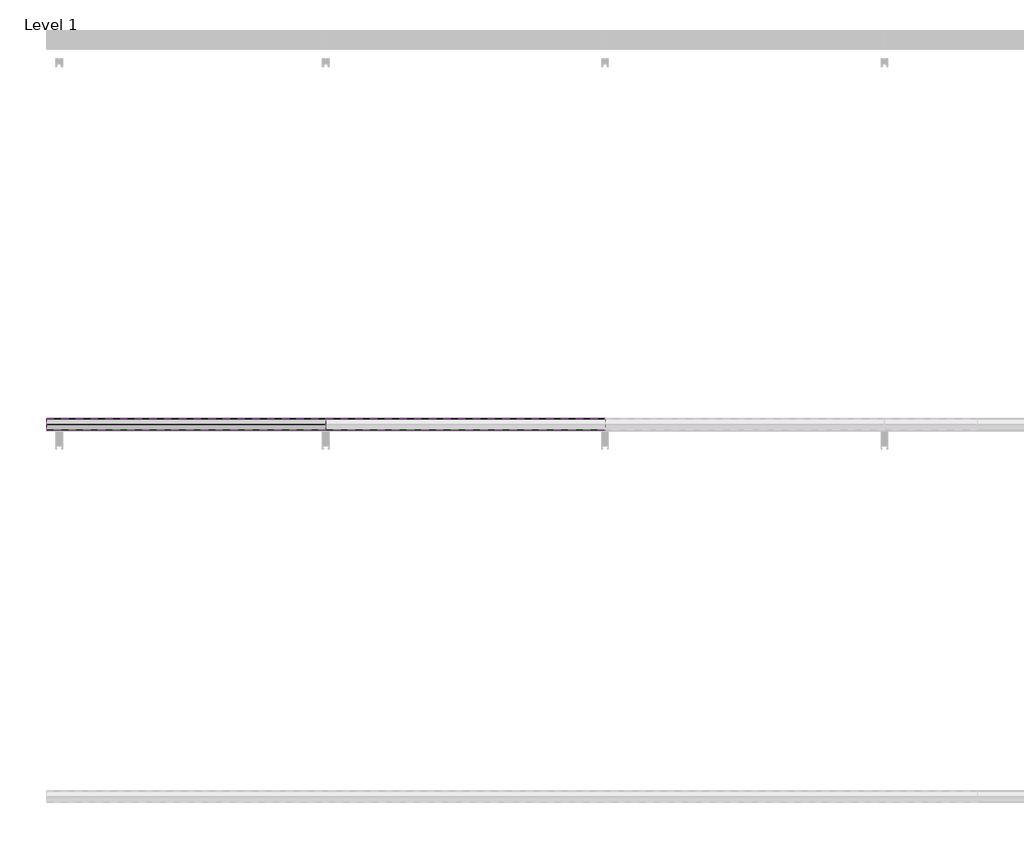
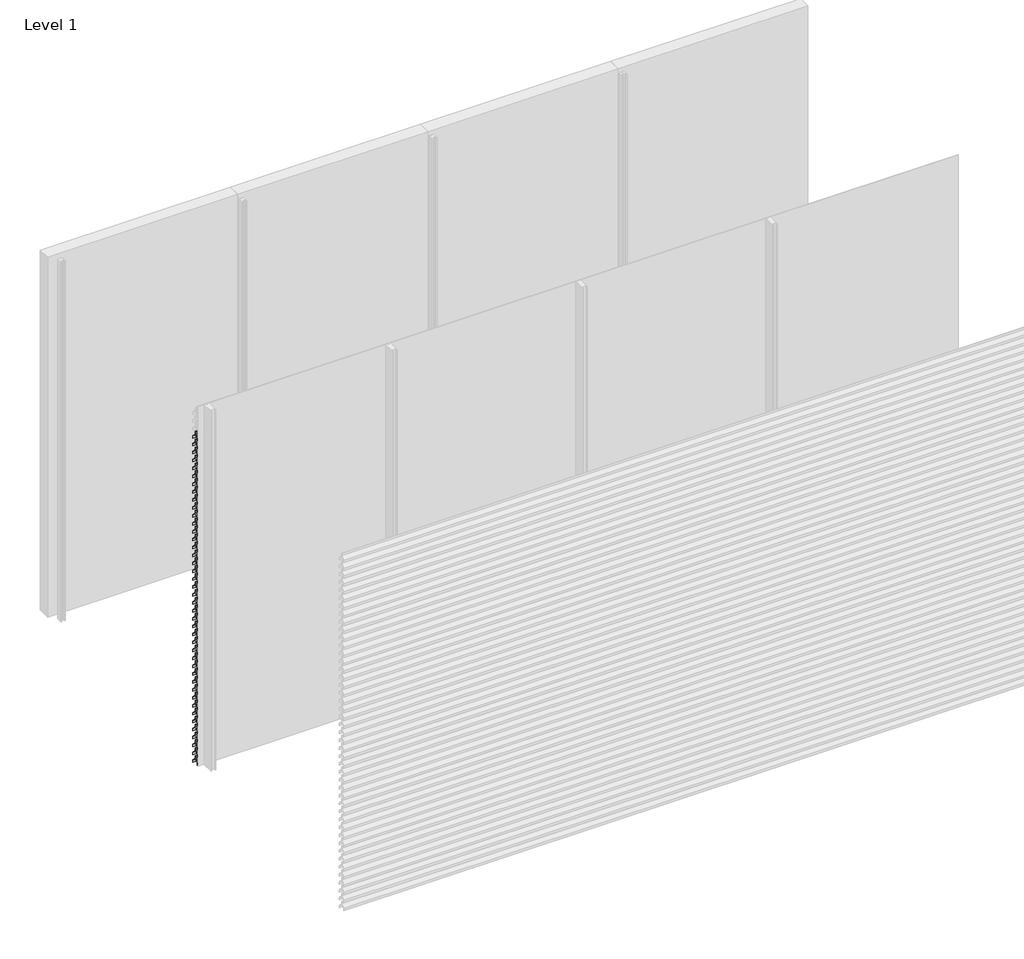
# One storey, part 23 of 35: 69 proxies.
"""IFC4 building model written with IfcOpenShell, lengths in millimetres."""

from ifc_helpers import new_model, si_unit, frame, origin, place, context, project, spatial, polyline, outline, extrude, element, save

model = new_model("IFC4")

# Units and contexts
model_context = context("Model", 3, world=origin())
ifc_project = project(units=[si_unit("LENGTHUNIT", "METRE", prefix="MILLI")], contexts=[model_context])

# Site, building, storey
site = spatial("IfcSite", under=ifc_project)
building = spatial("IfcBuilding", under=site)
storey = spatial("IfcBuildingStorey", under=building, Name="Level 1", Elevation=0.0)

# Proxies
placement = place(None, origin())
element("IfcBuildingElementProxy", 1, Name="Wall Sweeps", at=placement, inside=storey, context=model_context, shape_type="SweptSolid", body=[
    extrude(outline(polyline([(-17936.0, 2718.0), (-17936.0, 2698.0), (-17937.25, 2698.0), (-17937.25, 2717.4342979), (-17968.1138939, 2750.531772), (-17996.7, 2730.4392868), (-17996.7, 2711.6629874), (-17998.0, 2710.8506572), (-17998.0, 2731.1145472), (-17968.537525, 2751.823011), (-17968.537525, 2772.0), (-17967.1772624, 2772.0), (-17967.1772624, 2751.4335207), (-17936.0, 2718.0)])), frame((0.0, 0.0, 0.0), z_axis=(1.0, 0.0, 0.0), x_axis=(0.0, 1.0, 0.0)), (0.0, 0.0, 1.0), 1500.0),
])
element("IfcBuildingElementProxy", 2, Name="Wall Sweeps", at=placement, inside=storey, context=model_context, shape_type="SweptSolid", body=[
    extrude(outline(polyline([(-17936.0, 2652.0), (-17936.0, 2632.0), (-17937.25, 2632.0), (-17937.25, 2651.4342979), (-17968.1138939, 2684.531772), (-17996.7, 2664.4392868), (-17996.7, 2645.6629874), (-17998.0, 2644.8506572), (-17998.0, 2665.1145472), (-17968.537525, 2685.823011), (-17968.537525, 2706.0), (-17967.1772624, 2706.0), (-17967.1772624, 2685.4335207), (-17936.0, 2652.0)])), frame((0.0, 0.0, 0.0), z_axis=(1.0, 0.0, 0.0), x_axis=(0.0, 1.0, 0.0)), (0.0, 0.0, 1.0), 1500.0),
])
element("IfcBuildingElementProxy", 3, Name="Wall Sweeps", at=placement, inside=storey, context=model_context, shape_type="SweptSolid", body=[
    extrude(outline(polyline([(-17936.0, 2586.0), (-17936.0, 2566.0), (-17937.25, 2566.0), (-17937.25, 2585.4342979), (-17968.1138939, 2618.531772), (-17996.7, 2598.4392868), (-17996.7, 2579.6629874), (-17998.0, 2578.8506572), (-17998.0, 2599.1145472), (-17968.537525, 2619.823011), (-17968.537525, 2640.0), (-17967.1772624, 2640.0), (-17967.1772624, 2619.4335207), (-17936.0, 2586.0)])), frame((0.0, 0.0, 0.0), z_axis=(1.0, 0.0, 0.0), x_axis=(0.0, 1.0, 0.0)), (0.0, 0.0, 1.0), 1500.0),
])
element("IfcBuildingElementProxy", 4, Name="Wall Sweeps", at=placement, inside=storey, context=model_context, shape_type="SweptSolid", body=[
    extrude(outline(polyline([(-17936.0, 2520.0), (-17936.0, 2500.0), (-17937.25, 2500.0), (-17937.25, 2519.4342979), (-17968.1138939, 2552.531772), (-17996.7, 2532.4392868), (-17996.7, 2513.6629874), (-17998.0, 2512.8506572), (-17998.0, 2533.1145472), (-17968.537525, 2553.823011), (-17968.537525, 2574.0), (-17967.1772624, 2574.0), (-17967.1772624, 2553.4335207), (-17936.0, 2520.0)])), frame((0.0, 0.0, 0.0), z_axis=(1.0, 0.0, 0.0), x_axis=(0.0, 1.0, 0.0)), (0.0, 0.0, 1.0), 1500.0),
])
element("IfcBuildingElementProxy", 5, Name="Wall Sweeps", at=placement, inside=storey, context=model_context, shape_type="SweptSolid", body=[
    extrude(outline(polyline([(-17936.0, 2454.0), (-17936.0, 2434.0), (-17937.25, 2434.0), (-17937.25, 2453.4342979), (-17968.1138939, 2486.531772), (-17996.7, 2466.4392868), (-17996.7, 2447.6629874), (-17998.0, 2446.8506572), (-17998.0, 2467.1145472), (-17968.537525, 2487.823011), (-17968.537525, 2508.0), (-17967.1772624, 2508.0), (-17967.1772624, 2487.4335207), (-17936.0, 2454.0)])), frame((0.0, 0.0, 0.0), z_axis=(1.0, 0.0, 0.0), x_axis=(0.0, 1.0, 0.0)), (0.0, 0.0, 1.0), 1500.0),
])
element("IfcBuildingElementProxy", 6, Name="Wall Sweeps", at=placement, inside=storey, context=model_context, shape_type="SweptSolid", body=[
    extrude(outline(polyline([(-17936.0, 2388.0), (-17936.0, 2368.0), (-17937.25, 2368.0), (-17937.25, 2387.4342979), (-17968.1138939, 2420.531772), (-17996.7, 2400.4392868), (-17996.7, 2381.6629874), (-17998.0, 2380.8506572), (-17998.0, 2401.1145472), (-17968.537525, 2421.823011), (-17968.537525, 2442.0), (-17967.1772624, 2442.0), (-17967.1772624, 2421.4335207), (-17936.0, 2388.0)])), frame((0.0, 0.0, 0.0), z_axis=(1.0, 0.0, 0.0), x_axis=(0.0, 1.0, 0.0)), (0.0, 0.0, 1.0), 1500.0),
])
element("IfcBuildingElementProxy", 7, Name="Wall Sweeps", at=placement, inside=storey, context=model_context, shape_type="SweptSolid", body=[
    extrude(outline(polyline([(-17936.0, 2322.0), (-17936.0, 2302.0), (-17937.25, 2302.0), (-17937.25, 2321.4342979), (-17968.1138939, 2354.531772), (-17996.7, 2334.4392868), (-17996.7, 2315.6629874), (-17998.0, 2314.8506572), (-17998.0, 2335.1145472), (-17968.537525, 2355.823011), (-17968.537525, 2376.0), (-17967.1772624, 2376.0), (-17967.1772624, 2355.4335207), (-17936.0, 2322.0)])), frame((0.0, 0.0, 0.0), z_axis=(1.0, 0.0, 0.0), x_axis=(0.0, 1.0, 0.0)), (0.0, 0.0, 1.0), 1500.0),
])
element("IfcBuildingElementProxy", 8, Name="Wall Sweeps", at=placement, inside=storey, context=model_context, shape_type="SweptSolid", body=[
    extrude(outline(polyline([(-17936.0, 2256.0), (-17936.0, 2236.0), (-17937.25, 2236.0), (-17937.25, 2255.4342979), (-17968.1138939, 2288.531772), (-17996.7, 2268.4392868), (-17996.7, 2249.6629874), (-17998.0, 2248.8506572), (-17998.0, 2269.1145472), (-17968.537525, 2289.823011), (-17968.537525, 2310.0), (-17967.1772624, 2310.0), (-17967.1772624, 2289.4335207), (-17936.0, 2256.0)])), frame((0.0, 0.0, 0.0), z_axis=(1.0, 0.0, 0.0), x_axis=(0.0, 1.0, 0.0)), (0.0, 0.0, 1.0), 1500.0),
])
element("IfcBuildingElementProxy", 9, Name="Wall Sweeps", at=placement, inside=storey, context=model_context, shape_type="SweptSolid", body=[
    extrude(outline(polyline([(-17936.0, 2190.0), (-17936.0, 2170.0), (-17937.25, 2170.0), (-17937.25, 2189.4342979), (-17968.1138939, 2222.531772), (-17996.7, 2202.4392868), (-17996.7, 2183.6629874), (-17998.0, 2182.8506572), (-17998.0, 2203.1145472), (-17968.537525, 2223.823011), (-17968.537525, 2244.0), (-17967.1772624, 2244.0), (-17967.1772624, 2223.4335207), (-17936.0, 2190.0)])), frame((0.0, 0.0, 0.0), z_axis=(1.0, 0.0, 0.0), x_axis=(0.0, 1.0, 0.0)), (0.0, 0.0, 1.0), 1500.0),
])
element("IfcBuildingElementProxy", 10, Name="Wall Sweeps", at=placement, inside=storey, context=model_context, shape_type="SweptSolid", body=[
    extrude(outline(polyline([(-17936.0, 2124.0), (-17936.0, 2104.0), (-17937.25, 2104.0), (-17937.25, 2123.4342979), (-17968.1138939, 2156.531772), (-17996.7, 2136.4392868), (-17996.7, 2117.6629874), (-17998.0, 2116.8506572), (-17998.0, 2137.1145472), (-17968.537525, 2157.823011), (-17968.537525, 2178.0), (-17967.1772624, 2178.0), (-17967.1772624, 2157.4335207), (-17936.0, 2124.0)])), frame((0.0, 0.0, 0.0), z_axis=(1.0, 0.0, 0.0), x_axis=(0.0, 1.0, 0.0)), (0.0, 0.0, 1.0), 1500.0),
])
element("IfcBuildingElementProxy", 11, Name="Wall Sweeps", at=placement, inside=storey, context=model_context, shape_type="SweptSolid", body=[
    extrude(outline(polyline([(-17936.0, 2058.0), (-17936.0, 2038.0), (-17937.25, 2038.0), (-17937.25, 2057.4342979), (-17968.1138939, 2090.531772), (-17996.7, 2070.4392868), (-17996.7, 2051.6629874), (-17998.0, 2050.8506572), (-17998.0, 2071.1145472), (-17968.537525, 2091.823011), (-17968.537525, 2112.0), (-17967.1772624, 2112.0), (-17967.1772624, 2091.4335207), (-17936.0, 2058.0)])), frame((0.0, 0.0, 0.0), z_axis=(1.0, 0.0, 0.0), x_axis=(0.0, 1.0, 0.0)), (0.0, 0.0, 1.0), 1500.0),
])
element("IfcBuildingElementProxy", 12, Name="Wall Sweeps", at=placement, inside=storey, context=model_context, shape_type="SweptSolid", body=[
    extrude(outline(polyline([(-17936.0, 1992.0), (-17936.0, 1972.0), (-17937.25, 1972.0), (-17937.25, 1991.4342979), (-17968.1138939, 2024.531772), (-17996.7, 2004.4392868), (-17996.7, 1985.6629874), (-17998.0, 1984.8506572), (-17998.0, 2005.1145472), (-17968.537525, 2025.823011), (-17968.537525, 2046.0), (-17967.1772624, 2046.0), (-17967.1772624, 2025.4335207), (-17936.0, 1992.0)])), frame((0.0, 0.0, 0.0), z_axis=(1.0, 0.0, 0.0), x_axis=(0.0, 1.0, 0.0)), (0.0, 0.0, 1.0), 1500.0),
])
element("IfcBuildingElementProxy", 13, Name="Wall Sweeps", at=placement, inside=storey, context=model_context, shape_type="SweptSolid", body=[
    extrude(outline(polyline([(-17936.0, 1926.0), (-17936.0, 1906.0), (-17937.25, 1906.0), (-17937.25, 1925.4342979), (-17968.1138939, 1958.531772), (-17996.7, 1938.4392868), (-17996.7, 1919.6629874), (-17998.0, 1918.8506572), (-17998.0, 1939.1145472), (-17968.537525, 1959.823011), (-17968.537525, 1980.0), (-17967.1772624, 1980.0), (-17967.1772624, 1959.4335207), (-17936.0, 1926.0)])), frame((0.0, 0.0, 0.0), z_axis=(1.0, 0.0, 0.0), x_axis=(0.0, 1.0, 0.0)), (0.0, 0.0, 1.0), 1500.0),
])
element("IfcBuildingElementProxy", 14, Name="Wall Sweeps", at=placement, inside=storey, context=model_context, shape_type="SweptSolid", body=[
    extrude(outline(polyline([(-17936.0, 1860.0), (-17936.0, 1840.0), (-17937.25, 1840.0), (-17937.25, 1859.4342979), (-17968.1138939, 1892.531772), (-17996.7, 1872.4392868), (-17996.7, 1853.6629874), (-17998.0, 1852.8506572), (-17998.0, 1873.1145472), (-17968.537525, 1893.823011), (-17968.537525, 1914.0), (-17967.1772624, 1914.0), (-17967.1772624, 1893.4335207), (-17936.0, 1860.0)])), frame((0.0, 0.0, 0.0), z_axis=(1.0, 0.0, 0.0), x_axis=(0.0, 1.0, 0.0)), (0.0, 0.0, 1.0), 1500.0),
])
element("IfcBuildingElementProxy", 15, Name="Wall Sweeps", at=placement, inside=storey, context=model_context, shape_type="SweptSolid", body=[
    extrude(outline(polyline([(-17936.0, 1794.0), (-17936.0, 1774.0), (-17937.25, 1774.0), (-17937.25, 1793.4342979), (-17968.1138939, 1826.531772), (-17996.7, 1806.4392868), (-17996.7, 1787.6629874), (-17998.0, 1786.8506572), (-17998.0, 1807.1145472), (-17968.537525, 1827.823011), (-17968.537525, 1848.0), (-17967.1772624, 1848.0), (-17967.1772624, 1827.4335207), (-17936.0, 1794.0)])), frame((0.0, 0.0, 0.0), z_axis=(1.0, 0.0, 0.0), x_axis=(0.0, 1.0, 0.0)), (0.0, 0.0, 1.0), 1500.0),
])
element("IfcBuildingElementProxy", 16, Name="Wall Sweeps", at=placement, inside=storey, context=model_context, shape_type="SweptSolid", body=[
    extrude(outline(polyline([(-17936.0, 1728.0), (-17936.0, 1708.0), (-17937.25, 1708.0), (-17937.25, 1727.4342979), (-17968.1138939, 1760.531772), (-17996.7, 1740.4392868), (-17996.7, 1721.6629874), (-17998.0, 1720.8506572), (-17998.0, 1741.1145472), (-17968.537525, 1761.823011), (-17968.537525, 1782.0), (-17967.1772624, 1782.0), (-17967.1772624, 1761.4335207), (-17936.0, 1728.0)])), frame((0.0, 0.0, 0.0), z_axis=(1.0, 0.0, 0.0), x_axis=(0.0, 1.0, 0.0)), (0.0, 0.0, 1.0), 1500.0),
])
element("IfcBuildingElementProxy", 17, Name="Wall Sweeps", at=placement, inside=storey, context=model_context, shape_type="SweptSolid", body=[
    extrude(outline(polyline([(-17936.0, 1662.0), (-17936.0, 1642.0), (-17937.25, 1642.0), (-17937.25, 1661.4342979), (-17968.1138939, 1694.531772), (-17996.7, 1674.4392868), (-17996.7, 1655.6629874), (-17998.0, 1654.8506572), (-17998.0, 1675.1145472), (-17968.537525, 1695.823011), (-17968.537525, 1716.0), (-17967.1772624, 1716.0), (-17967.1772624, 1695.4335207), (-17936.0, 1662.0)])), frame((0.0, 0.0, 0.0), z_axis=(1.0, 0.0, 0.0), x_axis=(0.0, 1.0, 0.0)), (0.0, 0.0, 1.0), 1500.0),
])
element("IfcBuildingElementProxy", 18, Name="Wall Sweeps", at=placement, inside=storey, context=model_context, shape_type="SweptSolid", body=[
    extrude(outline(polyline([(-17936.0, 1596.0), (-17936.0, 1576.0), (-17937.25, 1576.0), (-17937.25, 1595.4342979), (-17968.1138939, 1628.531772), (-17996.7, 1608.4392868), (-17996.7, 1589.6629874), (-17998.0, 1588.8506572), (-17998.0, 1609.1145472), (-17968.537525, 1629.823011), (-17968.537525, 1650.0), (-17967.1772624, 1650.0), (-17967.1772624, 1629.4335207), (-17936.0, 1596.0)])), frame((0.0, 0.0, 0.0), z_axis=(1.0, 0.0, 0.0), x_axis=(0.0, 1.0, 0.0)), (0.0, 0.0, 1.0), 1500.0),
])
element("IfcBuildingElementProxy", 19, Name="Wall Sweeps", at=placement, inside=storey, context=model_context, shape_type="SweptSolid", body=[
    extrude(outline(polyline([(-17936.0, 1530.0), (-17936.0, 1510.0), (-17937.25, 1510.0), (-17937.25, 1529.4342979), (-17968.1138939, 1562.531772), (-17996.7, 1542.4392868), (-17996.7, 1523.6629874), (-17998.0, 1522.8506572), (-17998.0, 1543.1145472), (-17968.537525, 1563.823011), (-17968.537525, 1584.0), (-17967.1772624, 1584.0), (-17967.1772624, 1563.4335207), (-17936.0, 1530.0)])), frame((0.0, 0.0, 0.0), z_axis=(1.0, 0.0, 0.0), x_axis=(0.0, 1.0, 0.0)), (0.0, 0.0, 1.0), 1500.0),
])
element("IfcBuildingElementProxy", 20, Name="Wall Sweeps", at=placement, inside=storey, context=model_context, shape_type="SweptSolid", body=[
    extrude(outline(polyline([(-17936.0, 1464.0), (-17936.0, 1444.0), (-17937.25, 1444.0), (-17937.25, 1463.4342979), (-17968.1138939, 1496.531772), (-17996.7, 1476.4392868), (-17996.7, 1457.6629874), (-17998.0, 1456.8506572), (-17998.0, 1477.1145472), (-17968.537525, 1497.823011), (-17968.537525, 1518.0), (-17967.1772624, 1518.0), (-17967.1772624, 1497.4335207), (-17936.0, 1464.0)])), frame((0.0, 0.0, 0.0), z_axis=(1.0, 0.0, 0.0), x_axis=(0.0, 1.0, 0.0)), (0.0, 0.0, 1.0), 1500.0),
])
element("IfcBuildingElementProxy", 21, Name="Wall Sweeps", at=placement, inside=storey, context=model_context, shape_type="SweptSolid", body=[
    extrude(outline(polyline([(-17936.0, 1398.0), (-17936.0, 1378.0), (-17937.25, 1378.0), (-17937.25, 1397.4342979), (-17968.1138939, 1430.531772), (-17996.7, 1410.4392868), (-17996.7, 1391.6629874), (-17998.0, 1390.8506572), (-17998.0, 1411.1145472), (-17968.537525, 1431.823011), (-17968.537525, 1452.0), (-17967.1772624, 1452.0), (-17967.1772624, 1431.4335207), (-17936.0, 1398.0)])), frame((0.0, 0.0, 0.0), z_axis=(1.0, 0.0, 0.0), x_axis=(0.0, 1.0, 0.0)), (0.0, 0.0, 1.0), 1500.0),
])
element("IfcBuildingElementProxy", 22, Name="Wall Sweeps", at=placement, inside=storey, context=model_context, shape_type="SweptSolid", body=[
    extrude(outline(polyline([(-17936.0, 1332.0), (-17936.0, 1312.0), (-17937.25, 1312.0), (-17937.25, 1331.4342979), (-17968.1138939, 1364.531772), (-17996.7, 1344.4392868), (-17996.7, 1325.6629874), (-17998.0, 1324.8506572), (-17998.0, 1345.1145472), (-17968.537525, 1365.823011), (-17968.537525, 1386.0), (-17967.1772624, 1386.0), (-17967.1772624, 1365.4335207), (-17936.0, 1332.0)])), frame((0.0, 0.0, 0.0), z_axis=(1.0, 0.0, 0.0), x_axis=(0.0, 1.0, 0.0)), (0.0, 0.0, 1.0), 1500.0),
])
element("IfcBuildingElementProxy", 23, Name="Wall Sweeps", at=placement, inside=storey, context=model_context, shape_type="SweptSolid", body=[
    extrude(outline(polyline([(-17936.0, 1266.0), (-17936.0, 1246.0), (-17937.25, 1246.0), (-17937.25, 1265.4342979), (-17968.1138939, 1298.531772), (-17996.7, 1278.4392868), (-17996.7, 1259.6629874), (-17998.0, 1258.8506572), (-17998.0, 1279.1145472), (-17968.537525, 1299.823011), (-17968.537525, 1320.0), (-17967.1772624, 1320.0), (-17967.1772624, 1299.4335207), (-17936.0, 1266.0)])), frame((0.0, 0.0, 0.0), z_axis=(1.0, 0.0, 0.0), x_axis=(0.0, 1.0, 0.0)), (0.0, 0.0, 1.0), 1500.0),
])
element("IfcBuildingElementProxy", 24, Name="Wall Sweeps", at=placement, inside=storey, context=model_context, shape_type="SweptSolid", body=[
    extrude(outline(polyline([(-17936.0, 1200.0), (-17936.0, 1180.0), (-17937.25, 1180.0), (-17937.25, 1199.4342979), (-17968.1138939, 1232.531772), (-17996.7, 1212.4392868), (-17996.7, 1193.6629874), (-17998.0, 1192.8506572), (-17998.0, 1213.1145472), (-17968.537525, 1233.823011), (-17968.537525, 1254.0), (-17967.1772624, 1254.0), (-17967.1772624, 1233.4335207), (-17936.0, 1200.0)])), frame((0.0, 0.0, 0.0), z_axis=(1.0, 0.0, 0.0), x_axis=(0.0, 1.0, 0.0)), (0.0, 0.0, 1.0), 1500.0),
])
element("IfcBuildingElementProxy", 25, Name="Wall Sweeps", at=placement, inside=storey, context=model_context, shape_type="SweptSolid", body=[
    extrude(outline(polyline([(-17936.0, 1134.0), (-17936.0, 1114.0), (-17937.25, 1114.0), (-17937.25, 1133.4342979), (-17968.1138939, 1166.531772), (-17996.7, 1146.4392868), (-17996.7, 1127.6629874), (-17998.0, 1126.8506572), (-17998.0, 1147.1145472), (-17968.537525, 1167.823011), (-17968.537525, 1188.0), (-17967.1772624, 1188.0), (-17967.1772624, 1167.4335207), (-17936.0, 1134.0)])), frame((0.0, 0.0, 0.0), z_axis=(1.0, 0.0, 0.0), x_axis=(0.0, 1.0, 0.0)), (0.0, 0.0, 1.0), 1500.0),
])
element("IfcBuildingElementProxy", 26, Name="Wall Sweeps", at=placement, inside=storey, context=model_context, shape_type="SweptSolid", body=[
    extrude(outline(polyline([(-17936.0, 1068.0), (-17936.0, 1048.0), (-17937.25, 1048.0), (-17937.25, 1067.4342979), (-17968.1138939, 1100.531772), (-17996.7, 1080.4392868), (-17996.7, 1061.6629874), (-17998.0, 1060.8506572), (-17998.0, 1081.1145472), (-17968.537525, 1101.823011), (-17968.537525, 1122.0), (-17967.1772624, 1122.0), (-17967.1772624, 1101.4335207), (-17936.0, 1068.0)])), frame((0.0, 0.0, 0.0), z_axis=(1.0, 0.0, 0.0), x_axis=(0.0, 1.0, 0.0)), (0.0, 0.0, 1.0), 1500.0),
])
element("IfcBuildingElementProxy", 27, Name="Wall Sweeps", at=placement, inside=storey, context=model_context, shape_type="SweptSolid", body=[
    extrude(outline(polyline([(-17936.0, 1002.0), (-17936.0, 982.0), (-17937.25, 982.0), (-17937.25, 1001.4342979), (-17968.1138939, 1034.531772), (-17996.7, 1014.4392868), (-17996.7, 995.6629874), (-17998.0, 994.8506572), (-17998.0, 1015.1145472), (-17968.537525, 1035.823011), (-17968.537525, 1056.0), (-17967.1772624, 1056.0), (-17967.1772624, 1035.4335207), (-17936.0, 1002.0)])), frame((0.0, 0.0, 0.0), z_axis=(1.0, 0.0, 0.0), x_axis=(0.0, 1.0, 0.0)), (0.0, 0.0, 1.0), 1500.0),
])
element("IfcBuildingElementProxy", 28, Name="Wall Sweeps", at=placement, inside=storey, context=model_context, shape_type="SweptSolid", body=[
    extrude(outline(polyline([(-17936.0, 936.0), (-17936.0, 916.0), (-17937.25, 916.0), (-17937.25, 935.4342979), (-17968.1138939, 968.531772), (-17996.7, 948.4392868), (-17996.7, 929.6629874), (-17998.0, 928.8506572), (-17998.0, 949.1145472), (-17968.537525, 969.823011), (-17968.537525, 990.0), (-17967.1772624, 990.0), (-17967.1772624, 969.4335207), (-17936.0, 936.0)])), frame((0.0, 0.0, 0.0), z_axis=(1.0, 0.0, 0.0), x_axis=(0.0, 1.0, 0.0)), (0.0, 0.0, 1.0), 1500.0),
])
element("IfcBuildingElementProxy", 29, Name="Wall Sweeps", at=placement, inside=storey, context=model_context, shape_type="SweptSolid", body=[
    extrude(outline(polyline([(-17936.0, 870.0), (-17936.0, 850.0), (-17937.25, 850.0), (-17937.25, 869.4342979), (-17968.1138939, 902.531772), (-17996.7, 882.4392868), (-17996.7, 863.6629874), (-17998.0, 862.8506572), (-17998.0, 883.1145472), (-17968.537525, 903.823011), (-17968.537525, 924.0), (-17967.1772624, 924.0), (-17967.1772624, 903.4335207), (-17936.0, 870.0)])), frame((0.0, 0.0, 0.0), z_axis=(1.0, 0.0, 0.0), x_axis=(0.0, 1.0, 0.0)), (0.0, 0.0, 1.0), 1500.0),
])
element("IfcBuildingElementProxy", 30, Name="Wall Sweeps", at=placement, inside=storey, context=model_context, shape_type="SweptSolid", body=[
    extrude(outline(polyline([(-17936.0, 804.0), (-17936.0, 784.0), (-17937.25, 784.0), (-17937.25, 803.4342979), (-17968.1138939, 836.531772), (-17996.7, 816.4392868), (-17996.7, 797.6629874), (-17998.0, 796.8506572), (-17998.0, 817.1145472), (-17968.537525, 837.823011), (-17968.537525, 858.0), (-17967.1772624, 858.0), (-17967.1772624, 837.4335207), (-17936.0, 804.0)])), frame((0.0, 0.0, 0.0), z_axis=(1.0, 0.0, 0.0), x_axis=(0.0, 1.0, 0.0)), (0.0, 0.0, 1.0), 1500.0),
])
element("IfcBuildingElementProxy", 31, Name="Wall Sweeps", at=placement, inside=storey, context=model_context, shape_type="SweptSolid", body=[
    extrude(outline(polyline([(-17936.0, 738.0), (-17936.0, 718.0), (-17937.25, 718.0), (-17937.25, 737.4342979), (-17968.1138939, 770.531772), (-17996.7, 750.4392868), (-17996.7, 731.6629874), (-17998.0, 730.8506572), (-17998.0, 751.1145472), (-17968.537525, 771.823011), (-17968.537525, 792.0), (-17967.1772624, 792.0), (-17967.1772624, 771.4335207), (-17936.0, 738.0)])), frame((0.0, 0.0, 0.0), z_axis=(1.0, 0.0, 0.0), x_axis=(0.0, 1.0, 0.0)), (0.0, 0.0, 1.0), 1500.0),
])
element("IfcBuildingElementProxy", 32, Name="Wall Sweeps", at=placement, inside=storey, context=model_context, shape_type="SweptSolid", body=[
    extrude(outline(polyline([(-17936.0, 672.0), (-17936.0, 652.0), (-17937.25, 652.0), (-17937.25, 671.4342979), (-17968.1138939, 704.531772), (-17996.7, 684.4392868), (-17996.7, 665.6629874), (-17998.0, 664.8506572), (-17998.0, 685.1145472), (-17968.537525, 705.823011), (-17968.537525, 726.0), (-17967.1772624, 726.0), (-17967.1772624, 705.4335207), (-17936.0, 672.0)])), frame((0.0, 0.0, 0.0), z_axis=(1.0, 0.0, 0.0), x_axis=(0.0, 1.0, 0.0)), (0.0, 0.0, 1.0), 1500.0),
])
element("IfcBuildingElementProxy", 33, Name="Wall Sweeps", at=placement, inside=storey, context=model_context, shape_type="SweptSolid", body=[
    extrude(outline(polyline([(-17936.0, 606.0), (-17936.0, 586.0), (-17937.25, 586.0), (-17937.25, 605.4342979), (-17968.1138939, 638.531772), (-17996.7, 618.4392868), (-17996.7, 599.6629874), (-17998.0, 598.8506572), (-17998.0, 619.1145472), (-17968.537525, 639.823011), (-17968.537525, 660.0), (-17967.1772624, 660.0), (-17967.1772624, 639.4335207), (-17936.0, 606.0)])), frame((0.0, 0.0, 0.0), z_axis=(1.0, 0.0, 0.0), x_axis=(0.0, 1.0, 0.0)), (0.0, 0.0, 1.0), 1500.0),
])
element("IfcBuildingElementProxy", 34, Name="Wall Sweeps", at=placement, inside=storey, context=model_context, shape_type="SweptSolid", body=[
    extrude(outline(polyline([(-17936.0, 540.0), (-17936.0, 520.0), (-17937.25, 520.0), (-17937.25, 539.4342979), (-17968.1138939, 572.531772), (-17996.7, 552.4392868), (-17996.7, 533.6629874), (-17998.0, 532.8506572), (-17998.0, 553.1145472), (-17968.537525, 573.823011), (-17968.537525, 594.0), (-17967.1772624, 594.0), (-17967.1772624, 573.4335207), (-17936.0, 540.0)])), frame((0.0, 0.0, 0.0), z_axis=(1.0, 0.0, 0.0), x_axis=(0.0, 1.0, 0.0)), (0.0, 0.0, 1.0), 1500.0),
])
element("IfcBuildingElementProxy", 35, Name="Wall Sweeps", at=placement, inside=storey, context=model_context, shape_type="SweptSolid", body=[
    extrude(outline(polyline([(-17936.0, 474.0), (-17936.0, 454.0), (-17937.25, 454.0), (-17937.25, 473.4342979), (-17968.1138939, 506.531772), (-17996.7, 486.4392868), (-17996.7, 467.6629874), (-17998.0, 466.8506572), (-17998.0, 487.1145472), (-17968.537525, 507.823011), (-17968.537525, 528.0), (-17967.1772624, 528.0), (-17967.1772624, 507.4335207), (-17936.0, 474.0)])), frame((0.0, 0.0, 0.0), z_axis=(1.0, 0.0, 0.0), x_axis=(0.0, 1.0, 0.0)), (0.0, 0.0, 1.0), 1500.0),
])
element("IfcBuildingElementProxy", 36, Name="Wall Sweeps", at=placement, inside=storey, context=model_context, shape_type="SweptSolid", body=[
    extrude(outline(polyline([(-17936.0, 408.0), (-17936.0, 388.0), (-17937.25, 388.0), (-17937.25, 407.4342979), (-17968.1138939, 440.531772), (-17996.7, 420.4392868), (-17996.7, 401.6629874), (-17998.0, 400.8506572), (-17998.0, 421.1145472), (-17968.537525, 441.823011), (-17968.537525, 462.0), (-17967.1772624, 462.0), (-17967.1772624, 441.4335207), (-17936.0, 408.0)])), frame((0.0, 0.0, 0.0), z_axis=(1.0, 0.0, 0.0), x_axis=(0.0, 1.0, 0.0)), (0.0, 0.0, 1.0), 1500.0),
])
element("IfcBuildingElementProxy", 37, Name="Wall Sweeps", at=placement, inside=storey, context=model_context, shape_type="SweptSolid", body=[
    extrude(outline(polyline([(-17936.0, 342.0), (-17936.0, 322.0), (-17937.25, 322.0), (-17937.25, 341.4342979), (-17968.1138939, 374.531772), (-17996.7, 354.4392868), (-17996.7, 335.6629874), (-17998.0, 334.8506572), (-17998.0, 355.1145472), (-17968.537525, 375.823011), (-17968.537525, 396.0), (-17967.1772624, 396.0), (-17967.1772624, 375.4335207), (-17936.0, 342.0)])), frame((0.0, 0.0, 0.0), z_axis=(1.0, 0.0, 0.0), x_axis=(0.0, 1.0, 0.0)), (0.0, 0.0, 1.0), 1500.0),
])
element("IfcBuildingElementProxy", 38, Name="Wall Sweeps", at=placement, inside=storey, context=model_context, shape_type="SweptSolid", body=[
    extrude(outline(polyline([(-17936.0, 276.0), (-17936.0, 256.0), (-17937.25, 256.0), (-17937.25, 275.4342979), (-17968.1138939, 308.531772), (-17996.7, 288.4392868), (-17996.7, 269.6629874), (-17998.0, 268.8506572), (-17998.0, 289.1145472), (-17968.537525, 309.823011), (-17968.537525, 330.0), (-17967.1772624, 330.0), (-17967.1772624, 309.4335207), (-17936.0, 276.0)])), frame((0.0, 0.0, 0.0), z_axis=(1.0, 0.0, 0.0), x_axis=(0.0, 1.0, 0.0)), (0.0, 0.0, 1.0), 1500.0),
])
element("IfcBuildingElementProxy", 39, Name="Wall Sweeps", at=placement, inside=storey, context=model_context, shape_type="SweptSolid", body=[
    extrude(outline(polyline([(-17936.0, 210.0), (-17936.0, 190.0), (-17937.25, 190.0), (-17937.25, 209.4342979), (-17968.1138939, 242.531772), (-17996.7, 222.4392868), (-17996.7, 203.6629874), (-17998.0, 202.8506572), (-17998.0, 223.1145472), (-17968.537525, 243.823011), (-17968.537525, 264.0), (-17967.1772624, 264.0), (-17967.1772624, 243.4335207), (-17936.0, 210.0)])), frame((0.0, 0.0, 0.0), z_axis=(1.0, 0.0, 0.0), x_axis=(0.0, 1.0, 0.0)), (0.0, 0.0, 1.0), 1500.0),
])
element("IfcBuildingElementProxy", 40, Name="Wall Sweeps", at=placement, inside=storey, context=model_context, shape_type="SweptSolid", body=[
    extrude(outline(polyline([(-17936.0, 144.0), (-17936.0, 124.0), (-17937.25, 124.0), (-17937.25, 143.4342979), (-17968.1138939, 176.531772), (-17996.7, 156.4392868), (-17996.7, 137.6629874), (-17998.0, 136.8506572), (-17998.0, 157.1145472), (-17968.537525, 177.823011), (-17968.537525, 198.0), (-17967.1772624, 198.0), (-17967.1772624, 177.4335207), (-17936.0, 144.0)])), frame((0.0, 0.0, 0.0), z_axis=(1.0, 0.0, 0.0), x_axis=(0.0, 1.0, 0.0)), (0.0, 0.0, 1.0), 1500.0),
])
element("IfcBuildingElementProxy", 41, Name="Wall Sweeps", at=placement, inside=storey, context=model_context, shape_type="SweptSolid", body=[
    extrude(outline(polyline([(-17936.0, 78.0), (-17936.0, 58.0), (-17937.25, 58.0), (-17937.25, 77.4342979), (-17968.1138939, 110.531772), (-17996.7, 90.4392868), (-17996.7, 71.6629874), (-17998.0, 70.8506572), (-17998.0, 91.1145472), (-17968.537525, 111.823011), (-17968.537525, 132.0), (-17967.1772624, 132.0), (-17967.1772624, 111.4335207), (-17936.0, 78.0)])), frame((0.0, 0.0, 0.0), z_axis=(1.0, 0.0, 0.0), x_axis=(0.0, 1.0, 0.0)), (0.0, 0.0, 1.0), 1500.0),
])
element("IfcBuildingElementProxy", 42, Name="Wall Sweeps", at=placement, inside=storey, context=model_context, shape_type="SweptSolid", body=[
    extrude(outline(polyline([(-17936.0, 12.0), (-17936.0, -8.0), (-17937.25, -8.0), (-17937.25, 11.4342979), (-17968.1138939, 44.531772), (-17996.7, 24.4392868), (-17996.7, 5.6629874), (-17998.0, 4.8506572), (-17998.0, 25.1145472), (-17968.537525, 45.823011), (-17968.537525, 66.0), (-17967.1772624, 66.0), (-17967.1772624, 45.4335207), (-17936.0, 12.0)])), frame((0.0, 0.0, 0.0), z_axis=(1.0, 0.0, 0.0), x_axis=(0.0, 1.0, 0.0)), (0.0, 0.0, 1.0), 1500.0),
])
element("IfcBuildingElementProxy", 43, Name="Wall Sweeps", at=placement, inside=storey, context=model_context, shape_type="SweptSolid", body=[
    extrude(outline(polyline([(-17936.0, 2916.0), (-17936.0, 2896.0), (-17937.25, 2896.0), (-17937.25, 2915.4342979), (-17968.1138939, 2948.531772), (-17996.7, 2928.4392868), (-17996.7, 2909.6629874), (-17998.0, 2908.8506572), (-17998.0, 2929.1145472), (-17968.537525, 2949.823011), (-17968.537525, 2970.0), (-17967.1772624, 2970.0), (-17967.1772624, 2949.4335207), (-17936.0, 2916.0)])), frame((1500.0, 0.0, 0.0), z_axis=(1.0, 0.0, 0.0), x_axis=(0.0, 1.0, 0.0)), (0.0, 0.0, 1.0), 1500.0),
])
element("IfcBuildingElementProxy", 44, Name="Wall Sweeps", at=placement, inside=storey, context=model_context, shape_type="SweptSolid", body=[
    extrude(outline(polyline([(-17936.0, 2850.0), (-17936.0, 2830.0), (-17937.25, 2830.0), (-17937.25, 2849.4342979), (-17968.1138939, 2882.531772), (-17996.7, 2862.4392868), (-17996.7, 2843.6629874), (-17998.0, 2842.8506572), (-17998.0, 2863.1145472), (-17968.537525, 2883.823011), (-17968.537525, 2904.0), (-17967.1772624, 2904.0), (-17967.1772624, 2883.4335207), (-17936.0, 2850.0)])), frame((1500.0, 0.0, 0.0), z_axis=(1.0, 0.0, 0.0), x_axis=(0.0, 1.0, 0.0)), (0.0, 0.0, 1.0), 1500.0),
])
element("IfcBuildingElementProxy", 45, Name="Wall Sweeps", at=placement, inside=storey, context=model_context, shape_type="SweptSolid", body=[
    extrude(outline(polyline([(-17936.0, 2784.0), (-17936.0, 2764.0), (-17937.25, 2764.0), (-17937.25, 2783.4342979), (-17968.1138939, 2816.531772), (-17996.7, 2796.4392868), (-17996.7, 2777.6629874), (-17998.0, 2776.8506572), (-17998.0, 2797.1145472), (-17968.537525, 2817.823011), (-17968.537525, 2838.0), (-17967.1772624, 2838.0), (-17967.1772624, 2817.4335207), (-17936.0, 2784.0)])), frame((1500.0, 0.0, 0.0), z_axis=(1.0, 0.0, 0.0), x_axis=(0.0, 1.0, 0.0)), (0.0, 0.0, 1.0), 1500.0),
])
element("IfcBuildingElementProxy", 46, Name="Wall Sweeps", at=placement, inside=storey, context=model_context, shape_type="SweptSolid", body=[
    extrude(outline(polyline([(-17936.0, 2718.0), (-17936.0, 2698.0), (-17937.25, 2698.0), (-17937.25, 2717.4342979), (-17968.1138939, 2750.531772), (-17996.7, 2730.4392868), (-17996.7, 2711.6629874), (-17998.0, 2710.8506572), (-17998.0, 2731.1145472), (-17968.537525, 2751.823011), (-17968.537525, 2772.0), (-17967.1772624, 2772.0), (-17967.1772624, 2751.4335207), (-17936.0, 2718.0)])), frame((1500.0, 0.0, 0.0), z_axis=(1.0, 0.0, 0.0), x_axis=(0.0, 1.0, 0.0)), (0.0, 0.0, 1.0), 1500.0),
])
element("IfcBuildingElementProxy", 47, Name="Wall Sweeps", at=placement, inside=storey, context=model_context, shape_type="SweptSolid", body=[
    extrude(outline(polyline([(-17936.0, 2652.0), (-17936.0, 2632.0), (-17937.25, 2632.0), (-17937.25, 2651.4342979), (-17968.1138939, 2684.531772), (-17996.7, 2664.4392868), (-17996.7, 2645.6629874), (-17998.0, 2644.8506572), (-17998.0, 2665.1145472), (-17968.537525, 2685.823011), (-17968.537525, 2706.0), (-17967.1772624, 2706.0), (-17967.1772624, 2685.4335207), (-17936.0, 2652.0)])), frame((1500.0, 0.0, 0.0), z_axis=(1.0, 0.0, 0.0), x_axis=(0.0, 1.0, 0.0)), (0.0, 0.0, 1.0), 1500.0),
])
element("IfcBuildingElementProxy", 48, Name="Wall Sweeps", at=placement, inside=storey, context=model_context, shape_type="SweptSolid", body=[
    extrude(outline(polyline([(-17936.0, 2586.0), (-17936.0, 2566.0), (-17937.25, 2566.0), (-17937.25, 2585.4342979), (-17968.1138939, 2618.531772), (-17996.7, 2598.4392868), (-17996.7, 2579.6629874), (-17998.0, 2578.8506572), (-17998.0, 2599.1145472), (-17968.537525, 2619.823011), (-17968.537525, 2640.0), (-17967.1772624, 2640.0), (-17967.1772624, 2619.4335207), (-17936.0, 2586.0)])), frame((1500.0, 0.0, 0.0), z_axis=(1.0, 0.0, 0.0), x_axis=(0.0, 1.0, 0.0)), (0.0, 0.0, 1.0), 1500.0),
])
element("IfcBuildingElementProxy", 49, Name="Wall Sweeps", at=placement, inside=storey, context=model_context, shape_type="SweptSolid", body=[
    extrude(outline(polyline([(-17936.0, 2520.0), (-17936.0, 2500.0), (-17937.25, 2500.0), (-17937.25, 2519.4342979), (-17968.1138939, 2552.531772), (-17996.7, 2532.4392868), (-17996.7, 2513.6629874), (-17998.0, 2512.8506572), (-17998.0, 2533.1145472), (-17968.537525, 2553.823011), (-17968.537525, 2574.0), (-17967.1772624, 2574.0), (-17967.1772624, 2553.4335207), (-17936.0, 2520.0)])), frame((1500.0, 0.0, 0.0), z_axis=(1.0, 0.0, 0.0), x_axis=(0.0, 1.0, 0.0)), (0.0, 0.0, 1.0), 1500.0),
])
element("IfcBuildingElementProxy", 50, Name="Wall Sweeps", at=placement, inside=storey, context=model_context, shape_type="SweptSolid", body=[
    extrude(outline(polyline([(-17936.0, 2454.0), (-17936.0, 2434.0), (-17937.25, 2434.0), (-17937.25, 2453.4342979), (-17968.1138939, 2486.531772), (-17996.7, 2466.4392868), (-17996.7, 2447.6629874), (-17998.0, 2446.8506572), (-17998.0, 2467.1145472), (-17968.537525, 2487.823011), (-17968.537525, 2508.0), (-17967.1772624, 2508.0), (-17967.1772624, 2487.4335207), (-17936.0, 2454.0)])), frame((1500.0, 0.0, 0.0), z_axis=(1.0, 0.0, 0.0), x_axis=(0.0, 1.0, 0.0)), (0.0, 0.0, 1.0), 1500.0),
])
element("IfcBuildingElementProxy", 51, Name="Wall Sweeps", at=placement, inside=storey, context=model_context, shape_type="SweptSolid", body=[
    extrude(outline(polyline([(-17936.0, 2388.0), (-17936.0, 2368.0), (-17937.25, 2368.0), (-17937.25, 2387.4342979), (-17968.1138939, 2420.531772), (-17996.7, 2400.4392868), (-17996.7, 2381.6629874), (-17998.0, 2380.8506572), (-17998.0, 2401.1145472), (-17968.537525, 2421.823011), (-17968.537525, 2442.0), (-17967.1772624, 2442.0), (-17967.1772624, 2421.4335207), (-17936.0, 2388.0)])), frame((1500.0, 0.0, 0.0), z_axis=(1.0, 0.0, 0.0), x_axis=(0.0, 1.0, 0.0)), (0.0, 0.0, 1.0), 1500.0),
])
element("IfcBuildingElementProxy", 52, Name="Wall Sweeps", at=placement, inside=storey, context=model_context, shape_type="SweptSolid", body=[
    extrude(outline(polyline([(-17936.0, 2322.0), (-17936.0, 2302.0), (-17937.25, 2302.0), (-17937.25, 2321.4342979), (-17968.1138939, 2354.531772), (-17996.7, 2334.4392868), (-17996.7, 2315.6629874), (-17998.0, 2314.8506572), (-17998.0, 2335.1145472), (-17968.537525, 2355.823011), (-17968.537525, 2376.0), (-17967.1772624, 2376.0), (-17967.1772624, 2355.4335207), (-17936.0, 2322.0)])), frame((1500.0, 0.0, 0.0), z_axis=(1.0, 0.0, 0.0), x_axis=(0.0, 1.0, 0.0)), (0.0, 0.0, 1.0), 1500.0),
])
element("IfcBuildingElementProxy", 53, Name="Wall Sweeps", at=placement, inside=storey, context=model_context, shape_type="SweptSolid", body=[
    extrude(outline(polyline([(-17936.0, 2256.0), (-17936.0, 2236.0), (-17937.25, 2236.0), (-17937.25, 2255.4342979), (-17968.1138939, 2288.531772), (-17996.7, 2268.4392868), (-17996.7, 2249.6629874), (-17998.0, 2248.8506572), (-17998.0, 2269.1145472), (-17968.537525, 2289.823011), (-17968.537525, 2310.0), (-17967.1772624, 2310.0), (-17967.1772624, 2289.4335207), (-17936.0, 2256.0)])), frame((1500.0, 0.0, 0.0), z_axis=(1.0, 0.0, 0.0), x_axis=(0.0, 1.0, 0.0)), (0.0, 0.0, 1.0), 1500.0),
])
element("IfcBuildingElementProxy", 54, Name="Wall Sweeps", at=placement, inside=storey, context=model_context, shape_type="SweptSolid", body=[
    extrude(outline(polyline([(-17936.0, 2190.0), (-17936.0, 2170.0), (-17937.25, 2170.0), (-17937.25, 2189.4342979), (-17968.1138939, 2222.531772), (-17996.7, 2202.4392868), (-17996.7, 2183.6629874), (-17998.0, 2182.8506572), (-17998.0, 2203.1145472), (-17968.537525, 2223.823011), (-17968.537525, 2244.0), (-17967.1772624, 2244.0), (-17967.1772624, 2223.4335207), (-17936.0, 2190.0)])), frame((1500.0, 0.0, 0.0), z_axis=(1.0, 0.0, 0.0), x_axis=(0.0, 1.0, 0.0)), (0.0, 0.0, 1.0), 1500.0),
])
element("IfcBuildingElementProxy", 55, Name="Wall Sweeps", at=placement, inside=storey, context=model_context, shape_type="SweptSolid", body=[
    extrude(outline(polyline([(-17936.0, 2124.0), (-17936.0, 2104.0), (-17937.25, 2104.0), (-17937.25, 2123.4342979), (-17968.1138939, 2156.531772), (-17996.7, 2136.4392868), (-17996.7, 2117.6629874), (-17998.0, 2116.8506572), (-17998.0, 2137.1145472), (-17968.537525, 2157.823011), (-17968.537525, 2178.0), (-17967.1772624, 2178.0), (-17967.1772624, 2157.4335207), (-17936.0, 2124.0)])), frame((1500.0, 0.0, 0.0), z_axis=(1.0, 0.0, 0.0), x_axis=(0.0, 1.0, 0.0)), (0.0, 0.0, 1.0), 1500.0),
])
element("IfcBuildingElementProxy", 56, Name="Wall Sweeps", at=placement, inside=storey, context=model_context, shape_type="SweptSolid", body=[
    extrude(outline(polyline([(-17936.0, 2058.0), (-17936.0, 2038.0), (-17937.25, 2038.0), (-17937.25, 2057.4342979), (-17968.1138939, 2090.531772), (-17996.7, 2070.4392868), (-17996.7, 2051.6629874), (-17998.0, 2050.8506572), (-17998.0, 2071.1145472), (-17968.537525, 2091.823011), (-17968.537525, 2112.0), (-17967.1772624, 2112.0), (-17967.1772624, 2091.4335207), (-17936.0, 2058.0)])), frame((1500.0, 0.0, 0.0), z_axis=(1.0, 0.0, 0.0), x_axis=(0.0, 1.0, 0.0)), (0.0, 0.0, 1.0), 1500.0),
])
element("IfcBuildingElementProxy", 57, Name="Wall Sweeps", at=placement, inside=storey, context=model_context, shape_type="SweptSolid", body=[
    extrude(outline(polyline([(-17936.0, 1992.0), (-17936.0, 1972.0), (-17937.25, 1972.0), (-17937.25, 1991.4342979), (-17968.1138939, 2024.531772), (-17996.7, 2004.4392868), (-17996.7, 1985.6629874), (-17998.0, 1984.8506572), (-17998.0, 2005.1145472), (-17968.537525, 2025.823011), (-17968.537525, 2046.0), (-17967.1772624, 2046.0), (-17967.1772624, 2025.4335207), (-17936.0, 1992.0)])), frame((1500.0, 0.0, 0.0), z_axis=(1.0, 0.0, 0.0), x_axis=(0.0, 1.0, 0.0)), (0.0, 0.0, 1.0), 1500.0),
])
element("IfcBuildingElementProxy", 58, Name="Wall Sweeps", at=placement, inside=storey, context=model_context, shape_type="SweptSolid", body=[
    extrude(outline(polyline([(-17936.0, 1926.0), (-17936.0, 1906.0), (-17937.25, 1906.0), (-17937.25, 1925.4342979), (-17968.1138939, 1958.531772), (-17996.7, 1938.4392868), (-17996.7, 1919.6629874), (-17998.0, 1918.8506572), (-17998.0, 1939.1145472), (-17968.537525, 1959.823011), (-17968.537525, 1980.0), (-17967.1772624, 1980.0), (-17967.1772624, 1959.4335207), (-17936.0, 1926.0)])), frame((1500.0, 0.0, 0.0), z_axis=(1.0, 0.0, 0.0), x_axis=(0.0, 1.0, 0.0)), (0.0, 0.0, 1.0), 1500.0),
])
element("IfcBuildingElementProxy", 59, Name="Wall Sweeps", at=placement, inside=storey, context=model_context, shape_type="SweptSolid", body=[
    extrude(outline(polyline([(-17936.0, 1860.0), (-17936.0, 1840.0), (-17937.25, 1840.0), (-17937.25, 1859.4342979), (-17968.1138939, 1892.531772), (-17996.7, 1872.4392868), (-17996.7, 1853.6629874), (-17998.0, 1852.8506572), (-17998.0, 1873.1145472), (-17968.537525, 1893.823011), (-17968.537525, 1914.0), (-17967.1772624, 1914.0), (-17967.1772624, 1893.4335207), (-17936.0, 1860.0)])), frame((1500.0, 0.0, 0.0), z_axis=(1.0, 0.0, 0.0), x_axis=(0.0, 1.0, 0.0)), (0.0, 0.0, 1.0), 1500.0),
])
element("IfcBuildingElementProxy", 60, Name="Wall Sweeps", at=placement, inside=storey, context=model_context, shape_type="SweptSolid", body=[
    extrude(outline(polyline([(-17936.0, 1794.0), (-17936.0, 1774.0), (-17937.25, 1774.0), (-17937.25, 1793.4342979), (-17968.1138939, 1826.531772), (-17996.7, 1806.4392868), (-17996.7, 1787.6629874), (-17998.0, 1786.8506572), (-17998.0, 1807.1145472), (-17968.537525, 1827.823011), (-17968.537525, 1848.0), (-17967.1772624, 1848.0), (-17967.1772624, 1827.4335207), (-17936.0, 1794.0)])), frame((1500.0, 0.0, 0.0), z_axis=(1.0, 0.0, 0.0), x_axis=(0.0, 1.0, 0.0)), (0.0, 0.0, 1.0), 1500.0),
])
element("IfcBuildingElementProxy", 61, Name="Wall Sweeps", at=placement, inside=storey, context=model_context, shape_type="SweptSolid", body=[
    extrude(outline(polyline([(-17936.0, 1728.0), (-17936.0, 1708.0), (-17937.25, 1708.0), (-17937.25, 1727.4342979), (-17968.1138939, 1760.531772), (-17996.7, 1740.4392868), (-17996.7, 1721.6629874), (-17998.0, 1720.8506572), (-17998.0, 1741.1145472), (-17968.537525, 1761.823011), (-17968.537525, 1782.0), (-17967.1772624, 1782.0), (-17967.1772624, 1761.4335207), (-17936.0, 1728.0)])), frame((1500.0, 0.0, 0.0), z_axis=(1.0, 0.0, 0.0), x_axis=(0.0, 1.0, 0.0)), (0.0, 0.0, 1.0), 1500.0),
])
element("IfcBuildingElementProxy", 62, Name="Wall Sweeps", at=placement, inside=storey, context=model_context, shape_type="SweptSolid", body=[
    extrude(outline(polyline([(-17936.0, 1662.0), (-17936.0, 1642.0), (-17937.25, 1642.0), (-17937.25, 1661.4342979), (-17968.1138939, 1694.531772), (-17996.7, 1674.4392868), (-17996.7, 1655.6629874), (-17998.0, 1654.8506572), (-17998.0, 1675.1145472), (-17968.537525, 1695.823011), (-17968.537525, 1716.0), (-17967.1772624, 1716.0), (-17967.1772624, 1695.4335207), (-17936.0, 1662.0)])), frame((1500.0, 0.0, 0.0), z_axis=(1.0, 0.0, 0.0), x_axis=(0.0, 1.0, 0.0)), (0.0, 0.0, 1.0), 1500.0),
])
element("IfcBuildingElementProxy", 63, Name="Wall Sweeps", at=placement, inside=storey, context=model_context, shape_type="SweptSolid", body=[
    extrude(outline(polyline([(-17936.0, 1596.0), (-17936.0, 1576.0), (-17937.25, 1576.0), (-17937.25, 1595.4342979), (-17968.1138939, 1628.531772), (-17996.7, 1608.4392868), (-17996.7, 1589.6629874), (-17998.0, 1588.8506572), (-17998.0, 1609.1145472), (-17968.537525, 1629.823011), (-17968.537525, 1650.0), (-17967.1772624, 1650.0), (-17967.1772624, 1629.4335207), (-17936.0, 1596.0)])), frame((1500.0, 0.0, 0.0), z_axis=(1.0, 0.0, 0.0), x_axis=(0.0, 1.0, 0.0)), (0.0, 0.0, 1.0), 1500.0),
])
element("IfcBuildingElementProxy", 64, Name="Wall Sweeps", at=placement, inside=storey, context=model_context, shape_type="SweptSolid", body=[
    extrude(outline(polyline([(-17936.0, 1530.0), (-17936.0, 1510.0), (-17937.25, 1510.0), (-17937.25, 1529.4342979), (-17968.1138939, 1562.531772), (-17996.7, 1542.4392868), (-17996.7, 1523.6629874), (-17998.0, 1522.8506572), (-17998.0, 1543.1145472), (-17968.537525, 1563.823011), (-17968.537525, 1584.0), (-17967.1772624, 1584.0), (-17967.1772624, 1563.4335207), (-17936.0, 1530.0)])), frame((1500.0, 0.0, 0.0), z_axis=(1.0, 0.0, 0.0), x_axis=(0.0, 1.0, 0.0)), (0.0, 0.0, 1.0), 1500.0),
])
element("IfcBuildingElementProxy", 65, Name="Wall Sweeps", at=placement, inside=storey, context=model_context, shape_type="SweptSolid", body=[
    extrude(outline(polyline([(-17936.0, 1464.0), (-17936.0, 1444.0), (-17937.25, 1444.0), (-17937.25, 1463.4342979), (-17968.1138939, 1496.531772), (-17996.7, 1476.4392868), (-17996.7, 1457.6629874), (-17998.0, 1456.8506572), (-17998.0, 1477.1145472), (-17968.537525, 1497.823011), (-17968.537525, 1518.0), (-17967.1772624, 1518.0), (-17967.1772624, 1497.4335207), (-17936.0, 1464.0)])), frame((1500.0, 0.0, 0.0), z_axis=(1.0, 0.0, 0.0), x_axis=(0.0, 1.0, 0.0)), (0.0, 0.0, 1.0), 1500.0),
])
element("IfcBuildingElementProxy", 66, Name="Wall Sweeps", at=placement, inside=storey, context=model_context, shape_type="SweptSolid", body=[
    extrude(outline(polyline([(-17936.0, 1398.0), (-17936.0, 1378.0), (-17937.25, 1378.0), (-17937.25, 1397.4342979), (-17968.1138939, 1430.531772), (-17996.7, 1410.4392868), (-17996.7, 1391.6629874), (-17998.0, 1390.8506572), (-17998.0, 1411.1145472), (-17968.537525, 1431.823011), (-17968.537525, 1452.0), (-17967.1772624, 1452.0), (-17967.1772624, 1431.4335207), (-17936.0, 1398.0)])), frame((1500.0, 0.0, 0.0), z_axis=(1.0, 0.0, 0.0), x_axis=(0.0, 1.0, 0.0)), (0.0, 0.0, 1.0), 1500.0),
])
element("IfcBuildingElementProxy", 67, Name="Wall Sweeps", at=placement, inside=storey, context=model_context, shape_type="SweptSolid", body=[
    extrude(outline(polyline([(-17936.0, 1332.0), (-17936.0, 1312.0), (-17937.25, 1312.0), (-17937.25, 1331.4342979), (-17968.1138939, 1364.531772), (-17996.7, 1344.4392868), (-17996.7, 1325.6629874), (-17998.0, 1324.8506572), (-17998.0, 1345.1145472), (-17968.537525, 1365.823011), (-17968.537525, 1386.0), (-17967.1772624, 1386.0), (-17967.1772624, 1365.4335207), (-17936.0, 1332.0)])), frame((1500.0, 0.0, 0.0), z_axis=(1.0, 0.0, 0.0), x_axis=(0.0, 1.0, 0.0)), (0.0, 0.0, 1.0), 1500.0),
])
element("IfcBuildingElementProxy", 68, Name="Wall Sweeps", at=placement, inside=storey, context=model_context, shape_type="SweptSolid", body=[
    extrude(outline(polyline([(-17936.0, 1266.0), (-17936.0, 1246.0), (-17937.25, 1246.0), (-17937.25, 1265.4342979), (-17968.1138939, 1298.531772), (-17996.7, 1278.4392868), (-17996.7, 1259.6629874), (-17998.0, 1258.8506572), (-17998.0, 1279.1145472), (-17968.537525, 1299.823011), (-17968.537525, 1320.0), (-17967.1772624, 1320.0), (-17967.1772624, 1299.4335207), (-17936.0, 1266.0)])), frame((1500.0, 0.0, 0.0), z_axis=(1.0, 0.0, 0.0), x_axis=(0.0, 1.0, 0.0)), (0.0, 0.0, 1.0), 1500.0),
])
element("IfcBuildingElementProxy", 69, Name="Wall Sweeps", at=placement, inside=storey, context=model_context, shape_type="SweptSolid", body=[
    extrude(outline(polyline([(-17936.0, 1200.0), (-17936.0, 1180.0), (-17937.25, 1180.0), (-17937.25, 1199.4342979), (-17968.1138939, 1232.531772), (-17996.7, 1212.4392868), (-17996.7, 1193.6629874), (-17998.0, 1192.8506572), (-17998.0, 1213.1145472), (-17968.537525, 1233.823011), (-17968.537525, 1254.0), (-17967.1772624, 1254.0), (-17967.1772624, 1233.4335207), (-17936.0, 1200.0)])), frame((1500.0, 0.0, 0.0), z_axis=(1.0, 0.0, 0.0), x_axis=(0.0, 1.0, 0.0)), (0.0, 0.0, 1.0), 1500.0),
])

save(model, "model.ifc")
